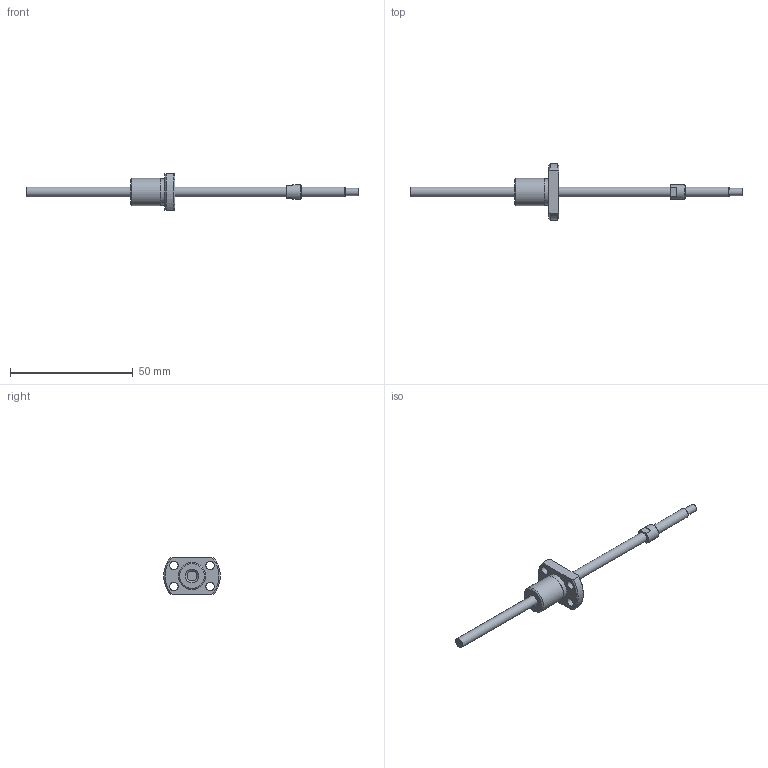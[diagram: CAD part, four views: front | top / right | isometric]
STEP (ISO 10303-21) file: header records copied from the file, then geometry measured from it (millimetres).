
FILE_DESCRIPTION(/* description */ ('STEP AP214'),/* implementation_level */ '2;1');
FILE_NAME(/* name */ 'NSGF0401Z-103R135C3-0-T-S-T-A-(42.5-S)',/* time_stamp */ '2026-08-24T20:02:09+02:00',/* author */ ('License CC BY-ND 4.0'),/* organization */ ('CADENAS'),/* preprocessor_version */ 'ST-DEVELOPER v20',/* originating_system */ 'PARTsolutions',/* authorisation */ ' ');
FILE_SCHEMA (('AUTOMOTIVE_DESIGN {1 0 10303 214 3 1 1}'));
Length unit declared in the file: millimetre
Products named in the file (3): NSGF0401Z-103R135C3-0-T-S-T-A-(42.5-S); NSG0401Z-103R13518_(T-S_T-A_2)_2; NSGF0401Z-23R23C3-0_(__2.5_1_S)-1
Assembly tree (2 placements, depth 2):
  NSGF0401Z-103R135C3-0-T-S-T-A-(42.5-S)
    NSG0401Z-103R13518_(T-S_T-A_2)_2
    NSGF0401Z-23R23C3-0_(__2.5_1_S)-1
Bounding box: 135 x 22.93 x 15 mm (x, y, z)
Volume: 3786 mm3; surface area: 3421.3 mm2
Topology: 2 solids, 2 shells, 38 faces, 84 edges, 55 vertices
Faces by surface type: plane 15, cylinder 13, cone 9, torus 1
Full cylindrical faces by diameter (mm): 3 x1, 3.4 x4, 4 x3, 6 x1, 10.75 x1, 11 x1
Entity records: 1045 total; most frequent: CARTESIAN_POINT 179, DIRECTION 176, ORIENTED_EDGE 126, AXIS2_PLACEMENT_3D 80, EDGE_LOOP 70, FACE_BOUND 70, EDGE_CURVE 63, VERTEX_POINT 51
